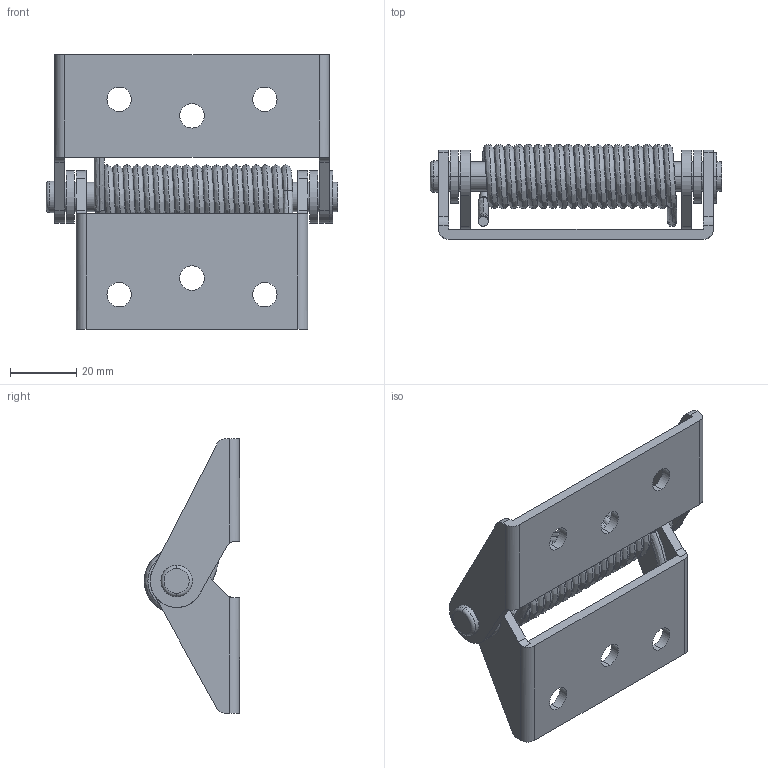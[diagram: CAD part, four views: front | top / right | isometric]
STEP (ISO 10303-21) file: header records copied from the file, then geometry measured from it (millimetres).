
FILE_DESCRIPTION (( 'STEP AP203' ), '1' );
FILE_NAME ('XG02-037-2.STEP', '2023-12-07T07:29:00', ( '' ), ( '' ), 'SwSTEP 2.0', 'SolidWorks 2020', '' );
FILE_SCHEMA (( 'CONFIG_CONTROL_DESIGN' ));
Length unit declared in the file: millimetre
Products named in the file (2): XG02-037-2; 翋极
Assembly tree (1 placements, depth 2):
  XG02-037-2
    翋极
Bounding box: 88 x 28.75 x 83 mm (x, y, z)
Volume: 34689.2 mm3; surface area: 30510.6 mm2
Topology: 7 solids, 7 shells, 114 faces, 289 edges, 192 vertices
Faces by surface type: cylinder 60, plane 43, bspline 9, torus 2
Entity records: 13360 total; most frequent: CARTESIAN_POINT 10324, DIRECTION 610, ORIENTED_EDGE 578, EDGE_CURVE 289, AXIS2_PLACEMENT_3D 242, VERTEX_POINT 192, EDGE_LOOP 143, CIRCLE 133
